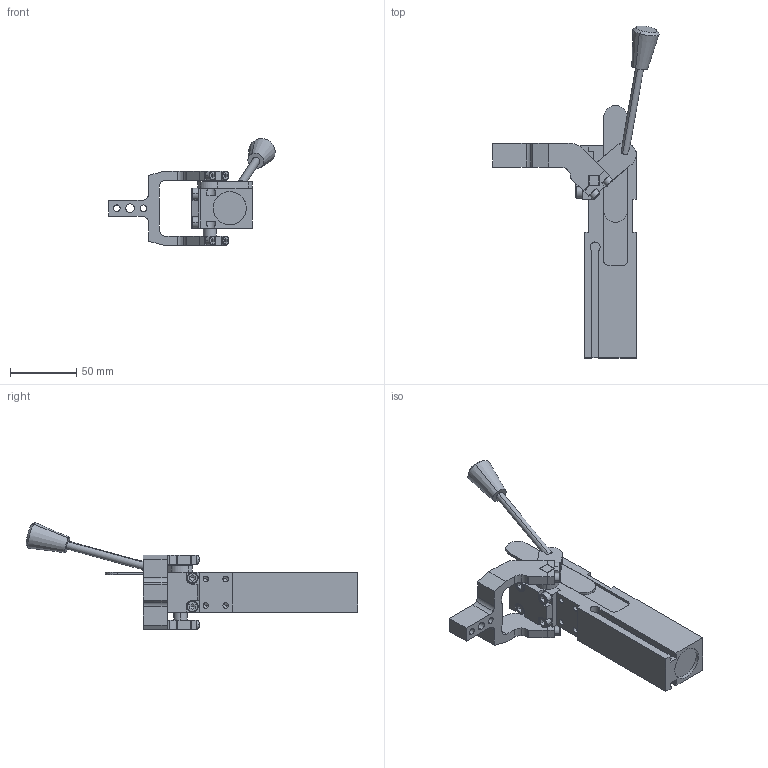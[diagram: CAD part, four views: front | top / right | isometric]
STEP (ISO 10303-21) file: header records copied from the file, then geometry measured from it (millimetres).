
FILE_DESCRIPTION(('CATIA V5 STEP Exchange'),'2;1');
FILE_NAME('G:\Konstruktion\Modelle\K_20_1_ZL_A18_T03_TUENKERS.stp','2018-03-19T12:26:06+00:00',('none'),('none'),'CATIA Version 5 Release 19 SP 9 (IN-10)','CATIA V5 STEP AP214','none');
FILE_SCHEMA(('AUTOMOTIVE_DESIGN { 1 0 10303 214 1 1 1 1 }'));
Length unit declared in the file: millimetre
Products named in the file (1): K_20_1_ZL_A18_T03_TUENKERS
Bounding box: 125.11 x 249.72 x 80.43 mm (x, y, z)
Volume: 218589.8 mm3; surface area: 53708.2 mm2
Topology: 3 solids, 7 shells, 503 faces, 1385 edges, 878 vertices
Faces by surface type: plane 267, cylinder 110, bspline 76, cone 34, torus 16
Entity records: 19545 total; most frequent: CARTESIAN_POINT 6263, ORIENTED_EDGE 2690, DIRECTION 1650, EDGE_CURVE 1345, VERTEX_POINT 878, VECTOR 697, LINE 697, AXIS2_PLACEMENT_3D 598
